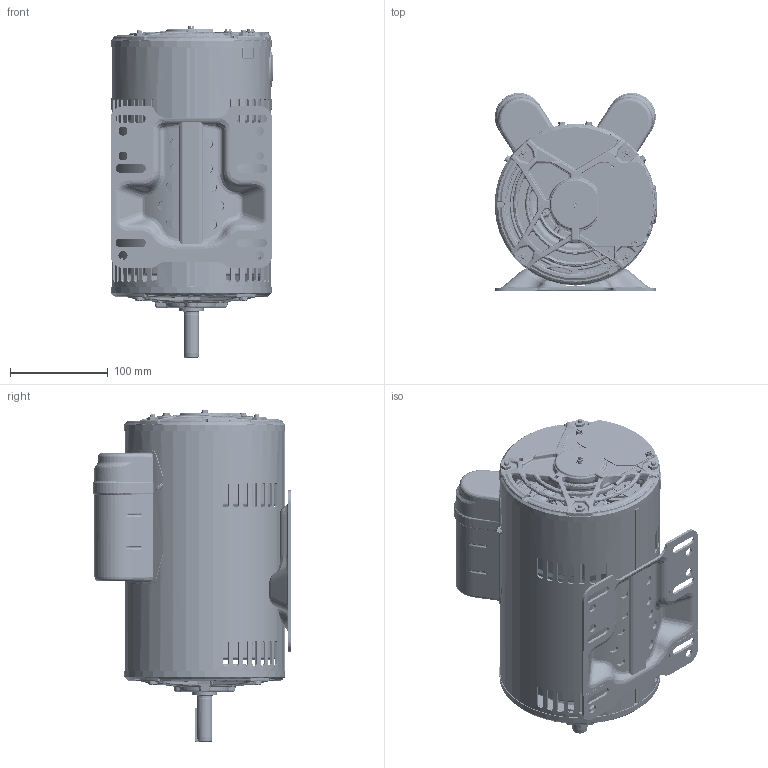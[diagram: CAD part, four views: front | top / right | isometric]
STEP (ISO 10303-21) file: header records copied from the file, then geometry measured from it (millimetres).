
FILE_DESCRIPTION (( 'STEP AP203' ), '1' );
FILE_NAME ('OL56100562-001_RevA.STEP', '2018-10-10T11:15:50', ( '' ), ( '' ), 'SwSTEP 2.0', 'SolidWorks 2015', '' );
FILE_SCHEMA (( 'CONFIG_CONTROL_DESIGN' ));
Products named in the file (1): OL56100562-001_RevA
Bounding box: 166.51 x 202.25 x 339.41 mm (x, y, z)
Volume: 3122221.8 mm3; surface area: 1319449.2 mm2
Topology: 57 solids, 57 shells, 19891 faces, 48942 edges, 28727 vertices
Faces by surface type: bspline 6534, cylinder 4992, plane 4398, torus 1969, sphere 1001, cone 997
Entity records: 788916 total; most frequent: CARTESIAN_POINT 373410, ORIENTED_EDGE 96360, DIRECTION 75945, EDGE_CURVE 48180, AXIS2_PLACEMENT_3D 30165, VERTEX_POINT 28683, EDGE_LOOP 20601, ADVANCED_FACE 19891
